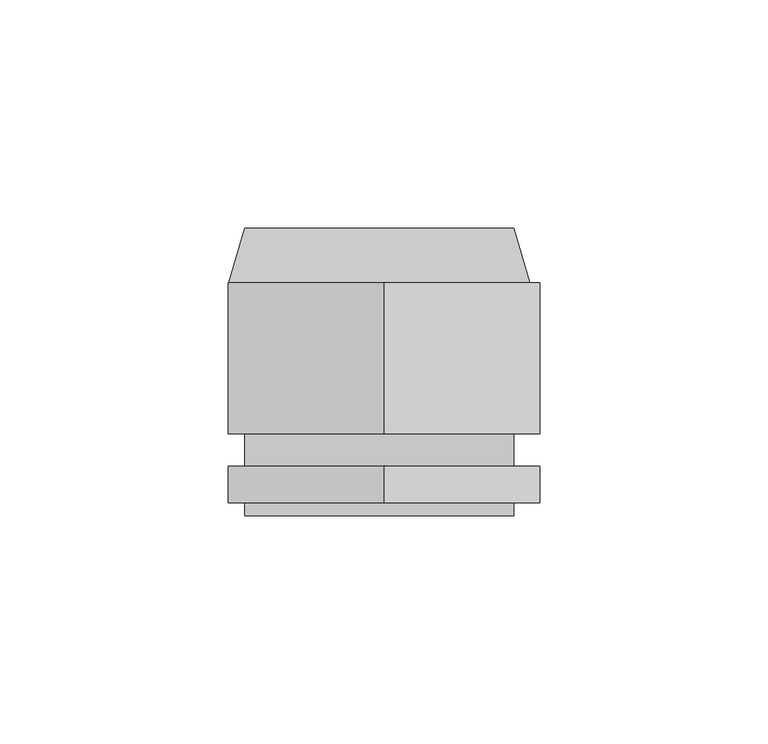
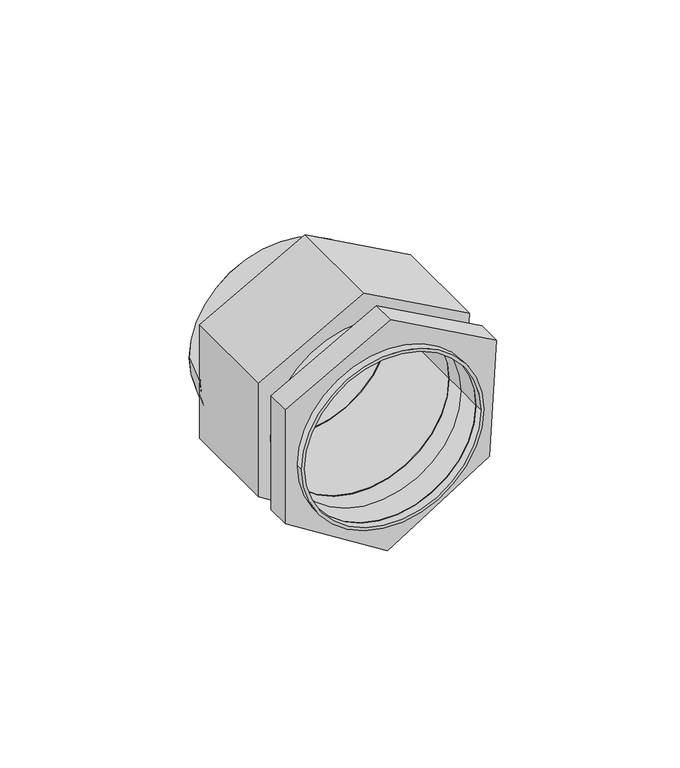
"""IFC4 building model written with IfcOpenShell, lengths in millimetres: cable carrier fitting geometry, Сальник_PGL_D_11-48_IP54 : Сальник PG 48 диаметр проводника 39-43мм IP54."""

from ifc_helpers import new_model, si_unit, point, frame, frame_2d, origin, place, context, project, spatial, polyline, circle_curve, trimmed, segment, composite_curve, outline, extrude, source, transform, mapped, element, save
from ifc_brep_helpers import plane_surface, revolved_surface, advanced_brep


def cable_carrier_fitting_d0a69e32(model_context):
    return source(origin(), model_context, "Body", "SolidModel", [
        advanced_brep(
        [(-28.4094864, 0.0, 0.0057257), (-28.4094864, -12.0, 0.0057257), (28.5905136, -12.0, 0.0057257), (28.5905136, 0.0, 0.0057257), (-32.9010286, -12.0, 0.0), (33.0989714, -12.0, 0.0), (-29.4010286, 0.0, 0.0), (29.5989714, 0.0, 0.0)],
        [
            (0, 1),
            (1, 2, circle_curve(frame((0.0905136, -12.0, 0.0057257), z_axis=(0.0, -1.0, 0.0), x_axis=(1.0, 0.0, 0.0)), 28.5)),
            (2, 3),
            (3, 0, circle_curve(frame((0.0905136, 0.0, 0.0057257), z_axis=(0.0, 1.0, 0.0), x_axis=(1.0, 0.0, 0.0)), 28.5)),
            (0, 3, circle_curve(frame((0.0905136, 0.0, 0.0057257), z_axis=(0.0, 1.0, 0.0), x_axis=(1.0, 0.0, 0.0)), 28.5)),
            (2, 1, circle_curve(frame((0.0905136, -12.0, 0.0057257), z_axis=(0.0, -1.0, 0.0), x_axis=(1.0, 0.0, 0.0)), 28.5)),
            (4, 5, circle_curve(frame((0.0989714, -12.0, 0.0), z_axis=(0.0, -1.0, 0.0), x_axis=(-1.0, 0.0, 0.0)), 33.0)),
            (5, 4, circle_curve(frame((0.0989714, -12.0, 0.0), z_axis=(0.0, -1.0, 0.0), x_axis=(1.0, 0.0, 0.0)), 33.0)),
            (6, 7, circle_curve(frame((0.0989714, 0.0, 0.0), z_axis=(0.0, 1.0, 0.0), x_axis=(1.0, 0.0, 0.0)), 29.5)),
            (7, 6, circle_curve(frame((0.0989714, 0.0, 0.0), z_axis=(0.0, 1.0, 0.0), x_axis=(-1.0, 0.0, 0.0)), 29.5)),
            (4, 6),
            (7, 5),
        ],
        [
            revolved_surface(polyline([(28.5905136, -12.0, 0.0057257), (28.5905136, 0.0, 0.0057257)]), (0.0905136, 9.180646, 0.0057257), (0.0, -1.0, 0.0)),
            plane_surface(frame((0.0989714, -12.0, 0.0), z_axis=(0.0, -1.0, 0.0), x_axis=(0.0, 0.0, -1.0))),
            plane_surface(frame((0.0989714, 0.0, 0.0), z_axis=(0.0, 1.0, 0.0), x_axis=(0.0, 0.0, -1.0))),
            revolved_surface(polyline([(29.598971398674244, 0.0, 0.0), (33.0989714, -12.0, 0.0)]), (0.0989714, 101.1428571, 0.0), (0.0, -1.0, 0.0)),
            revolved_surface(polyline([(-29.401028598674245, 0.0, 0.0), (-32.9010286, -12.0, 0.0)]), (0.0989714, 101.1428571, 0.0), (0.0, -1.0, 0.0)),
        ],
        [
            (0, [[1, 2, 3, 4]]),
            (0, [[-1, 5, -3, 6]]),
            (1, [[7, 8], [-2, -6]]),
            (2, [[9, 10], [-4, -5]]),
            (3, [[-7, 11, -10, 12]]),
            (4, [[-8, -12, -9, -11]]),
        ],
    ),
        extrude(outline(polyline([(-19.005319, 33.0), (19.9282733, 35.274949), (38.8196689, 1.1558169), (19.994681, -33.0), (-19.005319, -33.0), (-39.7899287, 0.0), (-19.005319, 33.0)]), holes=[composite_curve([segment(trimmed(circle_curve(frame_2d((0.0057257, 0.0905136)), 28.5), [point((0.0057257, 28.5905136))], [point((0.0057257, -28.4094864))], True, "CARTESIAN"), True, "CONTINUOUS"), segment(trimmed(circle_curve(frame_2d((0.0057257, 0.0905136)), 28.5), [point((0.0057257, -28.4094864))], [point((0.0057257, 28.5905136))], True, "CARTESIAN"), True, "CONTINUOUS")], self_intersect=False)]), frame((0.0, -45.0, 0.0), z_axis=(0.0, 1.0, 0.0), x_axis=(0.0, 0.0, 1.0)), (0.0, 0.0, 1.0), 33.0),
        extrude(outline(polyline([(-19.005319, 33.0), (19.9282733, 35.274949), (38.8196689, 1.1558169), (19.994681, -33.0), (-19.005319, -33.0), (-39.7899287, 0.0), (-19.005319, 33.0)]), holes=[composite_curve([segment(trimmed(circle_curve(frame_2d((0.0057257, 0.0905136)), 28.5), [point((0.0057257, 28.5905136))], [point((0.0057257, -28.4094864))], True, "CARTESIAN"), True, "CONTINUOUS"), segment(trimmed(circle_curve(frame_2d((0.0057257, 0.0905136)), 28.5), [point((0.0057257, -28.4094864))], [point((0.0057257, 28.5905136))], True, "CARTESIAN"), True, "CONTINUOUS")], self_intersect=False)]), frame((0.0, -60.1018563, 0.0), z_axis=(0.0, 1.0, 0.0), x_axis=(0.0, 0.0, 1.0)), (0.0, 0.0, 1.0), 8.0),
        extrude(outline(composite_curve([segment(trimmed(circle_curve(frame_2d((0.0032191, 0.0900025)), 29.5), [point((0.0032191, -29.4099975))], [point((0.0032191, 29.5900025))], False, "CARTESIAN"), True, "CONTINUOUS"), segment(trimmed(circle_curve(frame_2d((0.0032191, 0.0900025)), 29.5), [point((0.0032191, 29.5900025))], [point((0.0032191, -29.4099975))], False, "CARTESIAN"), True, "CONTINUOUS")], self_intersect=False), holes=[composite_curve([segment(trimmed(circle_curve(frame_2d((0.0057257, 0.0905136)), 28.5), [point((0.0057257, 28.5905136))], [point((0.0057257, -28.4094864))], True, "CARTESIAN"), True, "CONTINUOUS"), segment(trimmed(circle_curve(frame_2d((0.0057257, 0.0905136)), 28.5), [point((0.0057257, -28.4094864))], [point((0.0057257, 28.5905136))], True, "CARTESIAN"), True, "CONTINUOUS")], self_intersect=False)]), frame((0.0, -63.0, 0.0), z_axis=(0.0, 1.0, 0.0), x_axis=(0.0, 0.0, 1.0)), (0.0, 0.0, 1.0), 63.0),
    ])


if __name__ == "__main__":
    model = new_model("IFC4")
    model_context = context("Model", 3, world=origin())
    ifc_project = project(units=[si_unit("LENGTHUNIT", "METRE", prefix="MILLI")], contexts=[model_context])
    site = spatial("IfcSite", under=ifc_project)
    building = spatial("IfcBuilding", under=site)
    placement = place(None, origin())
    cable_carrier_fitting_shape = cable_carrier_fitting_d0a69e32(model_context)
    element("IfcCableCarrierFitting", 1, ObjectType="Сальник_PGL_D_11-48_IP54 : Сальник PG 48 диаметр проводника 39-43мм IP54", at=placement, inside=building, context=model_context, shape_type="MappedRepresentation", body=[
        mapped(cable_carrier_fitting_shape, transform((0.0, 0.0, 0.0), x_axis=(1.0, 0.0, 0.0), y_axis=(0.0, 1.0, 0.0), z_axis=(0.0, 0.0, 1.0))),
    ])
    save(model, "model.ifc")
